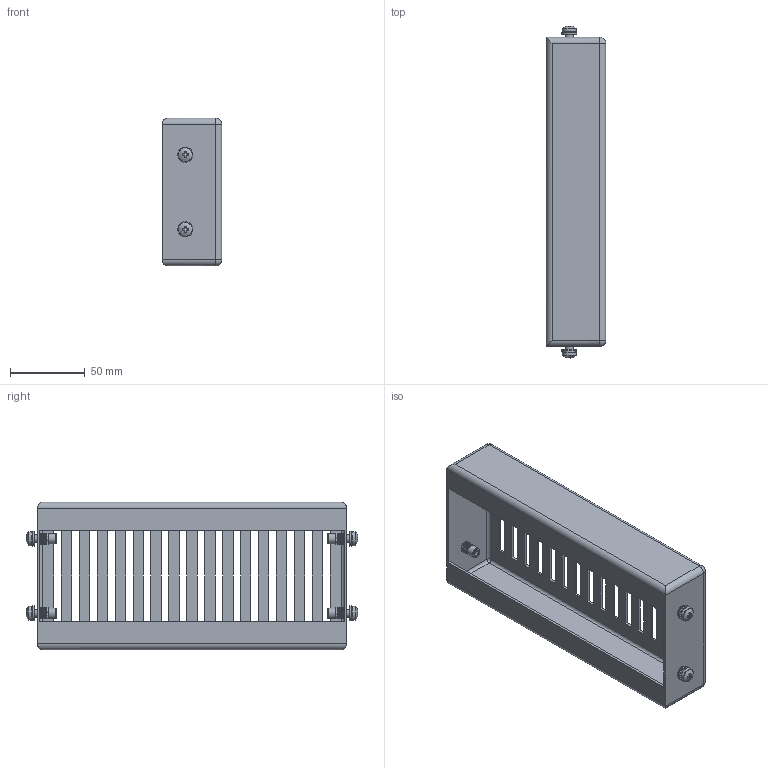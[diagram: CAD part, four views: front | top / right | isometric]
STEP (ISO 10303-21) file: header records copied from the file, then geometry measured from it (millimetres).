
FILE_DESCRIPTION(('STEP AP203'), '1');
FILE_NAME('3998 ÑÁ Áîêîâàÿ ïàíåëü öîêîëÿ', '', ('UNSPECIFIED'), ('UNSPECIFIED'), 'C3D Converter', 'C3D Toolkit', '');
FILE_SCHEMA(('CONFIG_CONTROL_DESIGN'));
Length unit declared in the file: millimetre
Products named in the file (6): 3998.10.40.П СБ; 3999
Assembly tree (17 placements, depth 2):
  3998.10.40.П СБ
    3999
    (unnamed)  x4
    (unnamed)  x4
    (unnamed)  x4
    (unnamed)  x4
Bounding box: 40 x 222.28 x 99 mm (x, y, z)
Volume: 67906.4 mm3; surface area: 97102.8 mm2
Topology: 17 solids, 17 shells, 583 faces, 1596 edges, 1060 vertices
Faces by surface type: cylinder 352, plane 179, bspline 16, sphere 12, torus 12, cone 12
Full cylindrical faces by diameter (mm): 4.134 x4, 5 x4, 5.5 x4, 5.8 x4, 6.9 x4, 7.2 x4, 9.5 x4, 10 x4
Entity records: 8885 total; most frequent: CARTESIAN_POINT 2325, DIRECTION 1293, ORIENTED_EDGE 1176, EDGE_CURVE 588, AXIS2_PLACEMENT_3D 470, VERTEX_POINT 391, LINE 353, VECTOR 353
